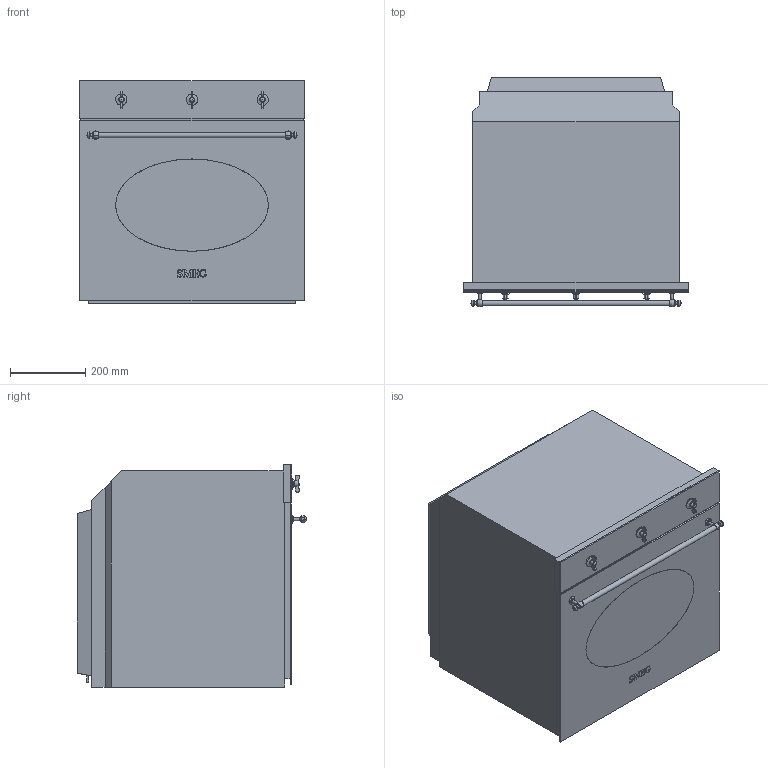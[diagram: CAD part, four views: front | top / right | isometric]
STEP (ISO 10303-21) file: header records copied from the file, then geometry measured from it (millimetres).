
FILE_DESCRIPTION(/* description */ ('Unknown'),/* implementation_level */ '2;1');
FILE_NAME(/* name */ 'SF68M3VPOGL',/* time_stamp */ '2025-10-20T16:36:49+02:00',/* author */ ('Unknown'),/* organization */ ('Unknown'),/* preprocessor_version */ 'ST-DEVELOPER v16.7',/* originating_system */ 'DEX',/* authorisation */ $);
FILE_SCHEMA (('AUTOMOTIVE_DESIGN {1 0 10303 214 3 1 1}'));
Length unit declared in the file: millimetre
Products named in the file (1): SF68M3VPOGL
Bounding box: 597 x 610.63 x 591.45 mm (x, y, z)
Volume: 174090863.7 mm3; surface area: 2088750.6 mm2
Topology: 2 solids, 2 shells, 208 faces, 546 edges, 369 vertices
Faces by surface type: plane 126, cylinder 55, torus 8, cone 8, bspline 6, sphere 5
Full cylindrical faces by diameter (mm): 5 x1, 13 x3, 14 x4, 14.3 x1, 15 x3, 16.6 x2, 30 x3
Entity records: 8094 total; most frequent: CARTESIAN_POINT 1795, DIRECTION 975, ORIENTED_EDGE 952, EDGE_CURVE 476, AXIS2_PLACEMENT_3D 339, VERTEX_POINT 338, LINE 297, VECTOR 297
